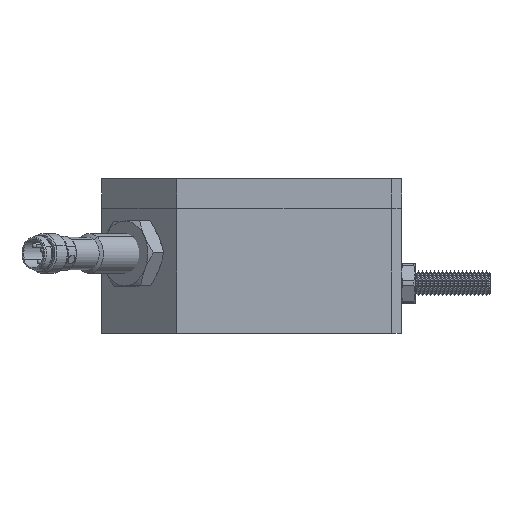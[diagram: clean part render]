
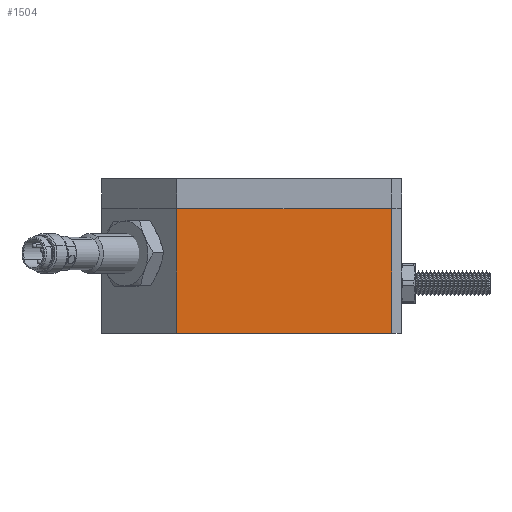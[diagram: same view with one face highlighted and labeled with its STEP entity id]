
A CAD part, front view. The second image highlights one B-rep face of the part: STEP entity #1504.
In plain terms, the highlighted planar face has unit normal (0, -1, 0).
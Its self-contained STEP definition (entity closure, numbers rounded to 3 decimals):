
#853 = VERTEX_POINT ( 'NONE', #10256 ) ;
#896 = VERTEX_POINT ( 'NONE', #10299 ) ;
#939 = VERTEX_POINT ( 'NONE', #10342 ) ;
#946 = VERTEX_POINT ( 'NONE', #10349 ) ;
#1147 = EDGE_CURVE ( 'NONE', #946, #939, #8311, .T. ) ;
#1150 = EDGE_CURVE ( 'NONE', #853, #939, #8316, .T. ) ;
#1155 = EDGE_CURVE ( 'NONE', #896, #946, #8324, .T. ) ;
#1504 = ADVANCED_FACE ( 'NONE', ( #8581 ), #11693, .F. ) ;
#8036 = EDGE_CURVE ( 'NONE', #896, #853, #23188, .T. ) ;
#8195 = EDGE_LOOP ( 'NONE', ( #24649, #24624, #24630, #24634 ) ) ;
#8311 = LINE ( 'NONE', #10563, #8312 ) ;
#8312 = VECTOR ( 'NONE', #10564, 1000. ) ;
#8316 = LINE ( 'NONE', #10570, #8317 ) ;
#8317 = VECTOR ( 'NONE', #10571, 1000. ) ;
#8324 = LINE ( 'NONE', #10582, #8325 ) ;
#8325 = VECTOR ( 'NONE', #10583, 1000. ) ;
#8581 = FACE_OUTER_BOUND ( 'NONE', #8195, .T. ) ;
#10256 = CARTESIAN_POINT ( 'NONE',  ( 28., -30., 25. ) ) ;
#10299 = CARTESIAN_POINT ( 'NONE',  ( -15., -30., 25. ) ) ;
#10342 = CARTESIAN_POINT ( 'NONE',  ( 28., -30., 0. ) ) ;
#10349 = CARTESIAN_POINT ( 'NONE',  ( -15., -30., 0. ) ) ;
#10563 = CARTESIAN_POINT ( 'NONE',  ( -15., -30., 0. ) ) ;
#10564 = DIRECTION ( 'NONE',  ( 1., 0., 0. ) ) ;
#10570 = CARTESIAN_POINT ( 'NONE',  ( 28., -30., 25. ) ) ;
#10571 = DIRECTION ( 'NONE',  ( 0., 0., -1. ) ) ;
#10582 = CARTESIAN_POINT ( 'NONE',  ( -15., -30., 25. ) ) ;
#10583 = DIRECTION ( 'NONE',  ( 0., 0., -1. ) ) ;
#11069 = AXIS2_PLACEMENT_3D ( 'NONE', #11696, #11706, #11707 ) ;
#11693 = PLANE ( 'NONE',  #11069 ) ;
#11696 = CARTESIAN_POINT ( 'NONE',  ( -15., -30., 25. ) ) ;
#11706 = DIRECTION ( 'NONE',  ( 0., 1., 0. ) ) ;
#11707 = DIRECTION ( 'NONE',  ( 0., 0., 1. ) ) ;
#23188 = LINE ( 'NONE', #23939, #23189 ) ;
#23189 = VECTOR ( 'NONE', #23940, 1000. ) ;
#23939 = CARTESIAN_POINT ( 'NONE',  ( -15., -30., 25. ) ) ;
#23940 = DIRECTION ( 'NONE',  ( 1., 0., 0. ) ) ;
#24624 = ORIENTED_EDGE ( 'NONE', *, *, #1150, .F. ) ;
#24630 = ORIENTED_EDGE ( 'NONE', *, *, #8036, .F. ) ;
#24634 = ORIENTED_EDGE ( 'NONE', *, *, #1155, .T. ) ;
#24649 = ORIENTED_EDGE ( 'NONE', *, *, #1147, .T. ) ;
